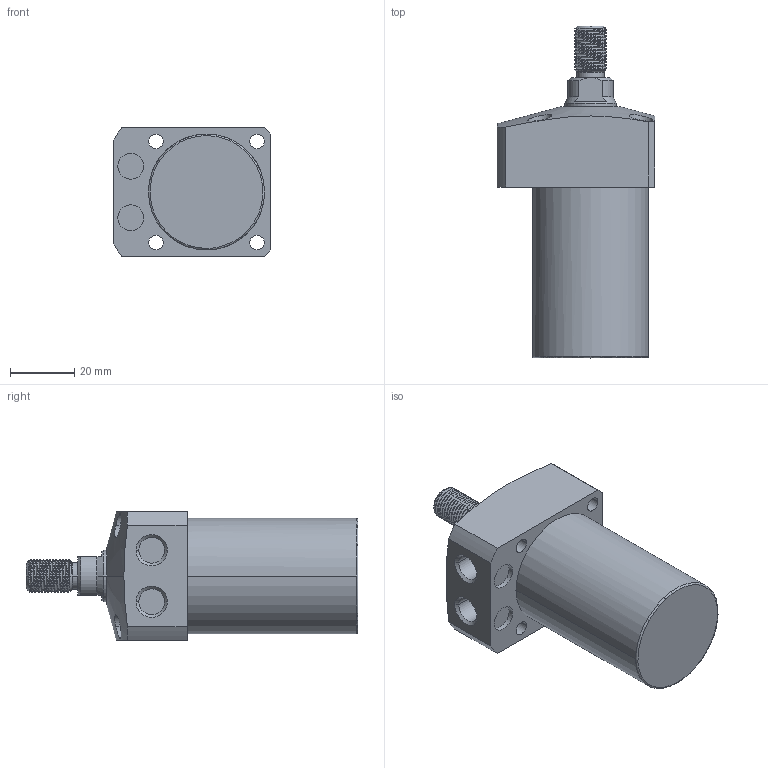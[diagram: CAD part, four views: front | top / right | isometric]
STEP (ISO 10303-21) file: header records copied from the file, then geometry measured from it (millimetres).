
FILE_DESCRIPTION((' '),'2;1');
FILE_NAME( 'TLL-036CT-045.STEP.stp', '2025-10-24T16:39:43', (' '), ('--- Datakit www.datakit.com---'), ' Datakit CrossCadWare V2024.1 Dec 21 2023', 'Mastercam 2025', ' ');
FILE_SCHEMA(('AUTOMOTIVE_DESIGN { 1 0 10303 214 1 1 1 1 }'));
Length unit declared in the file: millimetre
Products named in the file (1): TLL-036CT-045
Bounding box: 49 x 103 x 40 mm (x, y, z)
Volume: 96839.3 mm3; surface area: 16665.3 mm2
Topology: 1 solids, 1 shells, 101 faces, 351 edges, 263 vertices
Faces by surface type: cylinder 60, plane 23, cone 14, bspline 2, torus 2
Entity records: 11689 total; most frequent: CARTESIAN_POINT 8743, ORIENTED_EDGE 702, DIRECTION 513, EDGE_CURVE 351, VERTEX_POINT 263, AXIS2_PLACEMENT_3D 213, B_SPLINE_CURVE_WITH_KNOTS 151, EDGE_LOOP 120
